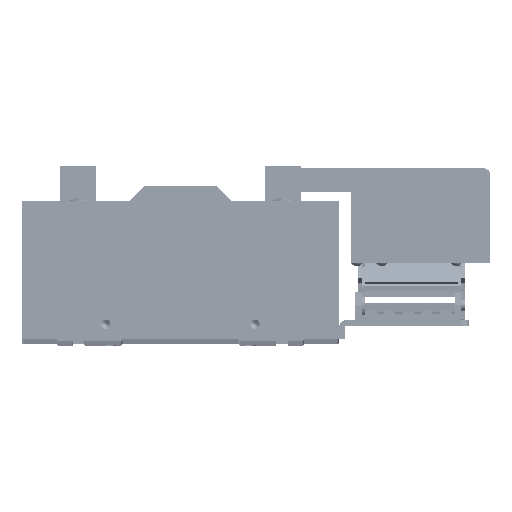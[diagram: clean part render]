
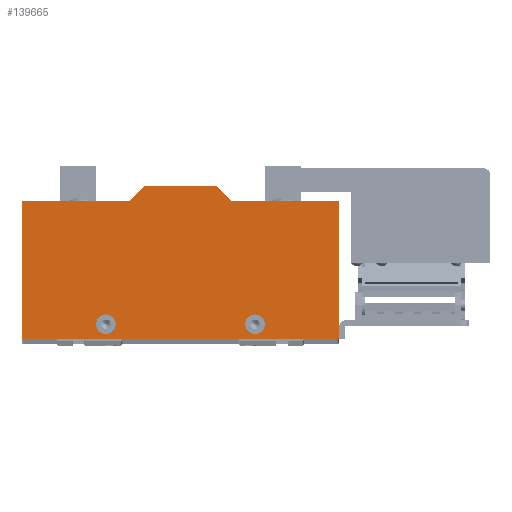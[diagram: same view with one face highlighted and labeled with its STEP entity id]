
A CAD part, top view. The second image highlights one B-rep face of the part: STEP entity #139665.
In plain terms, the highlighted planar face has unit normal (0, 0, 1).
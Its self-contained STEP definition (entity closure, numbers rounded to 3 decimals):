
#86622 = CARTESIAN_POINT ( 'NONE',  ( -34.75, -29., 9.525 ) ) ;
#86631 = DIRECTION ( 'NONE',  ( 1., 0., 0. ) ) ;
#86632 = DIRECTION ( 'NONE',  ( 0., 0., 1. ) ) ;
#86634 = CARTESIAN_POINT ( 'NONE',  ( -40., -29., 9.525 ) ) ;
#86636 = AXIS2_PLACEMENT_3D ( 'NONE', #86634, #86632, #86631 ) ;
#86638 = CIRCLE ( 'NONE', #86636, 5.25 ) ;
#86720 = CARTESIAN_POINT ( 'NONE',  ( 34.75, -29., 9.525 ) ) ;
#86834 = CARTESIAN_POINT ( 'NONE',  ( 45.25, -29., 9.525 ) ) ;
#86835 = DIRECTION ( 'NONE',  ( 1., 0., 0. ) ) ;
#86836 = DIRECTION ( 'NONE',  ( 0., 0., 1. ) ) ;
#86837 = CARTESIAN_POINT ( 'NONE',  ( 40., -29., 9.525 ) ) ;
#86839 = AXIS2_PLACEMENT_3D ( 'NONE', #86837, #86836, #86835 ) ;
#86840 = CIRCLE ( 'NONE', #86839, 5.25 ) ;
#86974 = DIRECTION ( 'NONE',  ( 0., 0., 1. ) ) ;
#86975 = CIRCLE ( 'NONE', #87520, 5.25 ) ;
#87182 = CARTESIAN_POINT ( 'NONE',  ( -45.25, -29., 9.525 ) ) ;
#87510 = CARTESIAN_POINT ( 'NONE',  ( 40., -29., 9.525 ) ) ;
#87520 = AXIS2_PLACEMENT_3D ( 'NONE', #87510, #86974, #88168 ) ;
#87590 = CARTESIAN_POINT ( 'NONE',  ( -85., 37., 9.525 ) ) ;
#87601 = DIRECTION ( 'NONE',  ( 0., -1., 0. ) ) ;
#87602 = VECTOR ( 'NONE', #87601, 1000. ) ;
#87603 = CARTESIAN_POINT ( 'NONE',  ( -85., 37., 9.525 ) ) ;
#87604 = LINE ( 'NONE', #87603, #87602 ) ;
#87619 = CARTESIAN_POINT ( 'NONE',  ( -85., -37., 9.525 ) ) ;
#88067 = CARTESIAN_POINT ( 'NONE',  ( 19.5, 45., 9.525 ) ) ;
#88168 = DIRECTION ( 'NONE',  ( 1., 0., 0. ) ) ;
#88209 = CARTESIAN_POINT ( 'NONE',  ( 85., 37., 9.525 ) ) ;
#88277 = DIRECTION ( 'NONE',  ( -1., 0., 0. ) ) ;
#88278 = VECTOR ( 'NONE', #88277, 1000. ) ;
#88280 = CARTESIAN_POINT ( 'NONE',  ( 27.5, 37., 9.525 ) ) ;
#88282 = LINE ( 'NONE', #88280, #88278 ) ;
#88533 = DIRECTION ( 'NONE',  ( 1., 0., 0. ) ) ;
#88534 = VECTOR ( 'NONE', #88533, 1000. ) ;
#88535 = CARTESIAN_POINT ( 'NONE',  ( -85., -37., 9.525 ) ) ;
#88536 = LINE ( 'NONE', #88535, #88534 ) ;
#88550 = DIRECTION ( 'NONE',  ( -0.707, 0.707, 0. ) ) ;
#88552 = VECTOR ( 'NONE', #88550, 1000. ) ;
#88554 = CARTESIAN_POINT ( 'NONE',  ( 19.5, 45., 9.525 ) ) ;
#88555 = LINE ( 'NONE', #88554, #88552 ) ;
#88572 = CARTESIAN_POINT ( 'NONE',  ( 85., -37., 9.525 ) ) ;
#88619 = DIRECTION ( 'NONE',  ( 0., 1., 0. ) ) ;
#88621 = VECTOR ( 'NONE', #88619, 1000. ) ;
#88623 = CARTESIAN_POINT ( 'NONE',  ( 85., 37., 9.525 ) ) ;
#88625 = LINE ( 'NONE', #88623, #88621 ) ;
#88656 = CARTESIAN_POINT ( 'NONE',  ( 27.5, 37., 9.525 ) ) ;
#89588 = CARTESIAN_POINT ( 'NONE',  ( -19.5, 45., 9.525 ) ) ;
#89601 = DIRECTION ( 'NONE',  ( -1., 0., 0. ) ) ;
#89602 = VECTOR ( 'NONE', #89601, 1000. ) ;
#89603 = CARTESIAN_POINT ( 'NONE',  ( -19.5, 45., 9.525 ) ) ;
#89604 = LINE ( 'NONE', #89603, #89602 ) ;
#89848 = DIRECTION ( 'NONE',  ( 1., 0., 0. ) ) ;
#89849 = DIRECTION ( 'NONE',  ( 0., 0., 1. ) ) ;
#89851 = CARTESIAN_POINT ( 'NONE',  ( -85., 37., 9.525 ) ) ;
#89852 = AXIS2_PLACEMENT_3D ( 'NONE', #89851, #89849, #89848 ) ;
#89853 = PLANE ( 'NONE',  #89852 ) ;
#89858 = FACE_OUTER_BOUND ( 'NONE', #139715, .T. ) ;
#89859 = FACE_BOUND ( 'NONE', #139912, .T. ) ;
#89861 = FACE_BOUND ( 'NONE', #139777, .T. ) ;
#89913 = DIRECTION ( 'NONE',  ( -1., 0., 0. ) ) ;
#89915 = VECTOR ( 'NONE', #89913, 1000. ) ;
#89916 = CARTESIAN_POINT ( 'NONE',  ( -85., 37., 9.525 ) ) ;
#89917 = LINE ( 'NONE', #89916, #89915 ) ;
#90032 = DIRECTION ( 'NONE',  ( -0.707, -0.707, 0. ) ) ;
#90033 = VECTOR ( 'NONE', #90032, 1000. ) ;
#90035 = CARTESIAN_POINT ( 'NONE',  ( -27.5, 37., 9.525 ) ) ;
#90036 = LINE ( 'NONE', #90035, #90033 ) ;
#90042 = CARTESIAN_POINT ( 'NONE',  ( -27.5, 37., 9.525 ) ) ;
#90795 = DIRECTION ( 'NONE',  ( 1., 0., 0. ) ) ;
#90796 = DIRECTION ( 'NONE',  ( 0., 0., 1. ) ) ;
#90798 = CARTESIAN_POINT ( 'NONE',  ( -40., -29., 9.525 ) ) ;
#90799 = AXIS2_PLACEMENT_3D ( 'NONE', #90798, #90796, #90795 ) ;
#90802 = CIRCLE ( 'NONE', #90799, 5.25 ) ;
#138866 = EDGE_CURVE ( 'NONE', #139038, #138868, #86638, .T. ) ;
#138868 = VERTEX_POINT ( 'NONE', #86622 ) ;
#138905 = VERTEX_POINT ( 'NONE', #86720 ) ;
#138909 = EDGE_CURVE ( 'NONE', #138905, #138910, #86840, .T. ) ;
#138910 = VERTEX_POINT ( 'NONE', #86834 ) ;
#139038 = VERTEX_POINT ( 'NONE', #87182 ) ;
#139139 = VERTEX_POINT ( 'NONE', #87619 ) ;
#139148 = EDGE_CURVE ( 'NONE', #139150, #139139, #87604, .T. ) ;
#139150 = VERTEX_POINT ( 'NONE', #87590 ) ;
#139222 = VERTEX_POINT ( 'NONE', #88067 ) ;
#139263 = VERTEX_POINT ( 'NONE', #88209 ) ;
#139283 = EDGE_CURVE ( 'NONE', #139263, #139381, #88282, .T. ) ;
#139364 = VERTEX_POINT ( 'NONE', #88572 ) ;
#139370 = EDGE_CURVE ( 'NONE', #139381, #139222, #88555, .T. ) ;
#139376 = EDGE_CURVE ( 'NONE', #139139, #139364, #88536, .T. ) ;
#139381 = VERTEX_POINT ( 'NONE', #88656 ) ;
#139389 = EDGE_CURVE ( 'NONE', #139364, #139263, #88625, .T. ) ;
#139598 = EDGE_CURVE ( 'NONE', #139222, #139602, #89604, .T. ) ;
#139602 = VERTEX_POINT ( 'NONE', #89588 ) ;
#139665 = ADVANCED_FACE ( 'NONE', ( #89861, #89859, #89858 ), #89853, .T. ) ;
#139684 = EDGE_CURVE ( 'NONE', #139725, #139150, #89917, .T. ) ;
#139708 = ORIENTED_EDGE ( 'NONE', *, *, #139709, .F. ) ;
#139709 = EDGE_CURVE ( 'NONE', #138910, #138905, #86975, .T. ) ;
#139713 = ORIENTED_EDGE ( 'NONE', *, *, #138909, .F. ) ;
#139715 = EDGE_LOOP ( 'NONE', ( #139717, #139719, #139812, #139813, #139815, #139817, #139763, #139766 ) ) ;
#139717 = ORIENTED_EDGE ( 'NONE', *, *, #139148, .T. ) ;
#139719 = ORIENTED_EDGE ( 'NONE', *, *, #139376, .T. ) ;
#139725 = VERTEX_POINT ( 'NONE', #90042 ) ;
#139729 = EDGE_CURVE ( 'NONE', #139602, #139725, #90036, .T. ) ;
#139763 = ORIENTED_EDGE ( 'NONE', *, *, #139729, .T. ) ;
#139766 = ORIENTED_EDGE ( 'NONE', *, *, #139684, .T. ) ;
#139777 = EDGE_LOOP ( 'NONE', ( #139778, #139909 ) ) ;
#139778 = ORIENTED_EDGE ( 'NONE', *, *, #139907, .F. ) ;
#139812 = ORIENTED_EDGE ( 'NONE', *, *, #139389, .T. ) ;
#139813 = ORIENTED_EDGE ( 'NONE', *, *, #139283, .T. ) ;
#139815 = ORIENTED_EDGE ( 'NONE', *, *, #139370, .T. ) ;
#139817 = ORIENTED_EDGE ( 'NONE', *, *, #139598, .T. ) ;
#139907 = EDGE_CURVE ( 'NONE', #138868, #139038, #90802, .T. ) ;
#139909 = ORIENTED_EDGE ( 'NONE', *, *, #138866, .F. ) ;
#139912 = EDGE_LOOP ( 'NONE', ( #139708, #139713 ) ) ;
